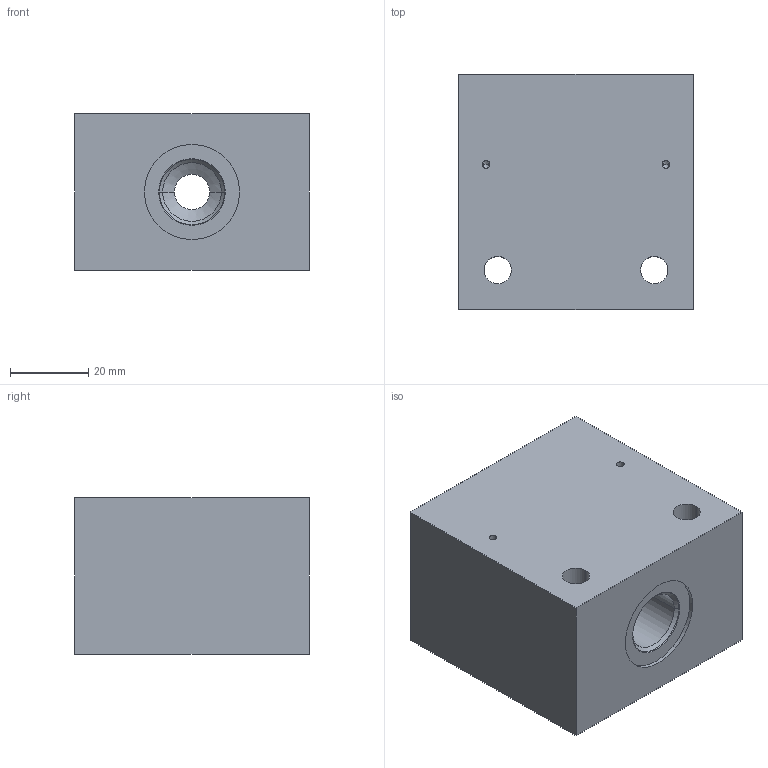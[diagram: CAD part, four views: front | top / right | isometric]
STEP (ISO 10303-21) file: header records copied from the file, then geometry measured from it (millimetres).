
FILE_DESCRIPTION((''),'2;1');
FILE_NAME('15662001','2023-10-11T',('l.soukupova'),(''),'PRO/ENGINEER BY PARAMETRIC TECHNOLOGY CORPORATION, 2015440','PRO/ENGINEER BY PARAMETRIC TECHNOLOGY CORPORATION, 2015440','');
FILE_SCHEMA(('AUTOMOTIVE_DESIGN { 1 0 10303 214 1 1 1 1 }'));
Length unit declared in the file: millimetre
Products named in the file (1): 15662001
Bounding box: 60 x 60 x 40 mm (x, y, z)
Volume: 126583.9 mm3; surface area: 23691.5 mm2
Topology: 1 solids, 4 shells, 64 faces, 240 edges, 209 vertices
Faces by surface type: cylinder 32, cone 20, plane 12
Entity records: 3507 total; most frequent: CARTESIAN_POINT 499, DIRECTION 448, ORIENTED_EDGE 276, PRESENTATION_STYLE_ASSIGNMENT 270, STYLED_ITEM 258, CURVE_STYLE 254, VECTOR 154, LINE 154
